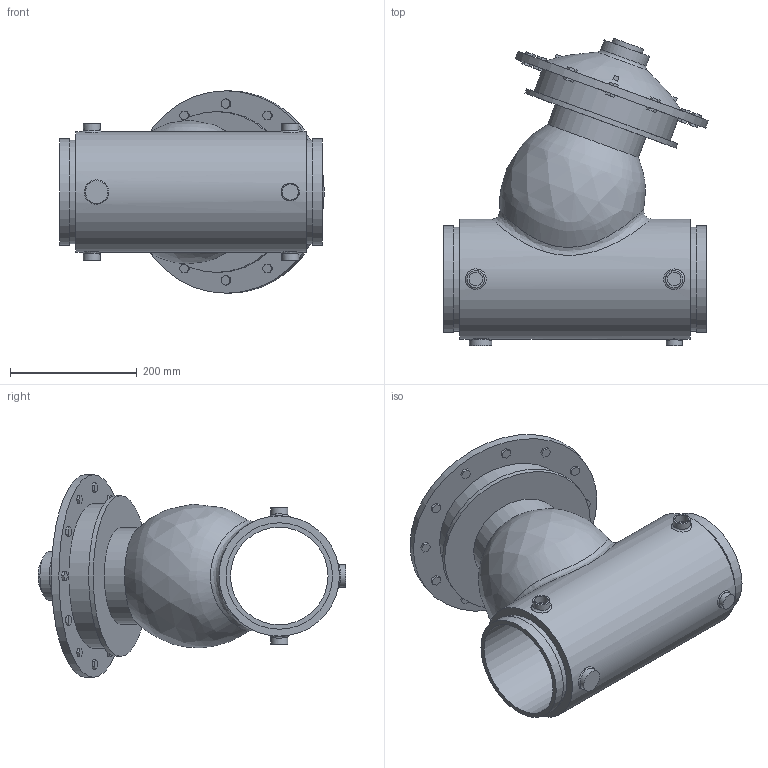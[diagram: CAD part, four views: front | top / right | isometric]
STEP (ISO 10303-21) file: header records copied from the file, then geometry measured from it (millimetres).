
FILE_DESCRIPTION(/* description */ ('VIC FP VALVE PRESSURE RELIEF SERIES 867-7UF (OGS)','CAx-IF Rec.Pracs.---Representation and Presentation of Product Manufacturing Information (PMI)---4.0---2014-10-13'),/* implementation_level */ '2;1');
FILE_NAME(/* name */ 'C:\Series 867-7UF\New folder (2)\step\Victaulic_FP-Bermad_Valve Pressure Relief_Series 867-7UF (OGS)\Victaulic_FP-Bermad_Valve Pressure Relief_Series 867-7UF (OGS)_6 (150).stp',/* time_stamp */ '2021-09-02T12:11:14+06:00',/* author */ ('kkamble'),/* organization */ ('Victaulic'),/* preprocessor_version */ 'ST-DEVELOPER v17.2',/* originating_system */ 'Autodesk Inventor 2019',/* authorisation */ '');
FILE_SCHEMA (('AP242_MANAGED_MODEL_BASED_3D_ENGINEERING_MIM_LF { 1 0 10303 442 1 1 4 }'));
Length unit declared in the file: inch
Products named in the file (1): 867-7UF-06.0
Bounding box: 418.23 x 486.02 x 320.04 mm (x, y, z)
Volume: 13416314.4 mm3; surface area: 791292 mm2
Topology: 1 solids, 1 shells, 238 faces, 597 edges, 406 vertices
Faces by surface type: plane 206, cylinder 22, bspline 9, torus 1
Full cylindrical faces by diameter (mm): 21.336 x4, 25.4 x1, 26.873 x4, 35.56 x1, 50.8 x1, 76.2 x1, 152.4 x1, 154.051 x1, 163.957 x2, 168.275 x2, 189.992 x1, 228.6 x1, 254 x1, 320.04 x1
Entity records: 8567 total; most frequent: CARTESIAN_POINT 2442, ORIENTED_EDGE 1206, DIRECTION 1128, EDGE_CURVE 603, LINE 482, VECTOR 482, VERTEX_POINT 412, AXIS2_PLACEMENT_3D 323
